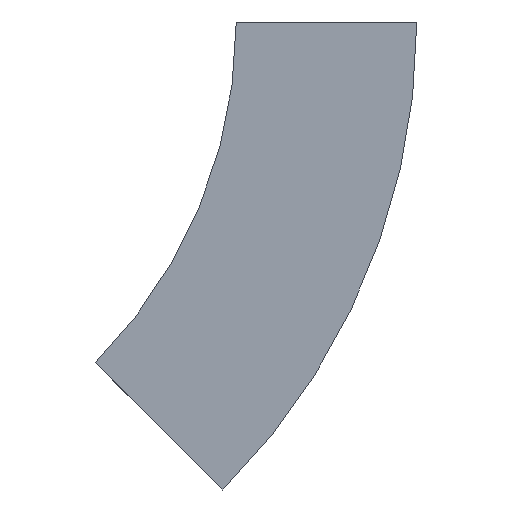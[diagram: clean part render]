
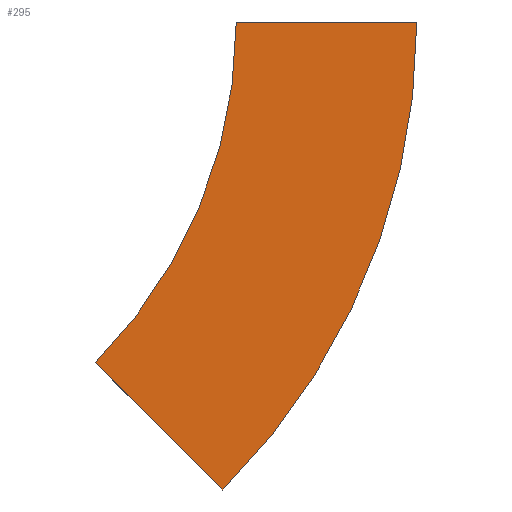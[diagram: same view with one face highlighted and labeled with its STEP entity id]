
A CAD part, left-side view. The second image highlights one B-rep face of the part: STEP entity #295.
In plain terms, the highlighted planar face has unit normal (-1, 0, 0) as drawn and (1, 0, 0) by its records, which use the part's own axes.
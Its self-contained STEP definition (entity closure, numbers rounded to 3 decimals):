
#12 = CARTESIAN_POINT ( 'NONE',  ( 0., -112.5, 0. ) ) ;
#41 = FACE_OUTER_BOUND ( 'NONE', #305, .T. ) ;
#90 = DIRECTION ( 'NONE',  ( 0., 0., 1. ) ) ;
#98 = VECTOR ( 'NONE', #368, 1000. ) ;
#106 = CARTESIAN_POINT ( 'NONE',  ( 0., 8.318, -291.682 ) ) ;
#157 = DIRECTION ( 'NONE',  ( 0., -1., 0. ) ) ;
#161 = VERTEX_POINT ( 'NONE', #300 ) ;
#169 = EDGE_CURVE ( 'NONE', #161, #312, #389, .T. ) ;
#180 = AXIS2_PLACEMENT_3D ( 'NONE', #437, #227, #90 ) ;
#227 = DIRECTION ( 'NONE',  ( -1., 0., 0. ) ) ;
#241 = DIRECTION ( 'NONE',  ( 0., 0.707, 0.707 ) ) ;
#255 = EDGE_CURVE ( 'NONE', #312, #465, #361, .T. ) ;
#256 = CARTESIAN_POINT ( 'NONE',  ( 0., 87.868, -212.132 ) ) ;
#264 = EDGE_CURVE ( 'NONE', #161, #490, #409, .T. ) ;
#281 = CARTESIAN_POINT ( 'NONE',  ( 0., 0., 0. ) ) ;
#295 = ADVANCED_FACE ( 'NONE', ( #41 ), #553, .F. ) ;
#297 = DIRECTION ( 'NONE',  ( 1., 0., 0. ) ) ;
#300 = CARTESIAN_POINT ( 'NONE',  ( 0., -112.5, 0. ) ) ;
#305 = EDGE_LOOP ( 'NONE', ( #444, #422, #517, #387 ) ) ;
#312 = VERTEX_POINT ( 'NONE', #106 ) ;
#352 = VECTOR ( 'NONE', #241, 1000. ) ;
#361 = LINE ( 'NONE', #449, #352 ) ;
#368 = DIRECTION ( 'NONE',  ( 0., 1., 0. ) ) ;
#371 = CARTESIAN_POINT ( 'NONE',  ( 0., 300., 0. ) ) ;
#380 = CARTESIAN_POINT ( 'NONE',  ( 0., 300., 0. ) ) ;
#387 = ORIENTED_EDGE ( 'NONE', *, *, #255, .T. ) ;
#389 = CIRCLE ( 'NONE', #491, 412.5 ) ;
#390 = AXIS2_PLACEMENT_3D ( 'NONE', #380, #297, #463 ) ;
#409 = LINE ( 'NONE', #12, #98 ) ;
#422 = ORIENTED_EDGE ( 'NONE', *, *, #264, .F. ) ;
#437 = CARTESIAN_POINT ( 'NONE',  ( 0., -112.5, 0. ) ) ;
#438 = CIRCLE ( 'NONE', #390, 300. ) ;
#444 = ORIENTED_EDGE ( 'NONE', *, *, #468, .F. ) ;
#449 = CARTESIAN_POINT ( 'NONE',  ( 0., 8.318, -291.682 ) ) ;
#463 = DIRECTION ( 'NONE',  ( 0., -1., 0. ) ) ;
#465 = VERTEX_POINT ( 'NONE', #256 ) ;
#468 = EDGE_CURVE ( 'NONE', #490, #465, #438, .T. ) ;
#490 = VERTEX_POINT ( 'NONE', #281 ) ;
#491 = AXIS2_PLACEMENT_3D ( 'NONE', #371, #538, #157 ) ;
#517 = ORIENTED_EDGE ( 'NONE', *, *, #169, .T. ) ;
#538 = DIRECTION ( 'NONE',  ( 1., 0., 0. ) ) ;
#553 = PLANE ( 'NONE',  #180 ) ;
